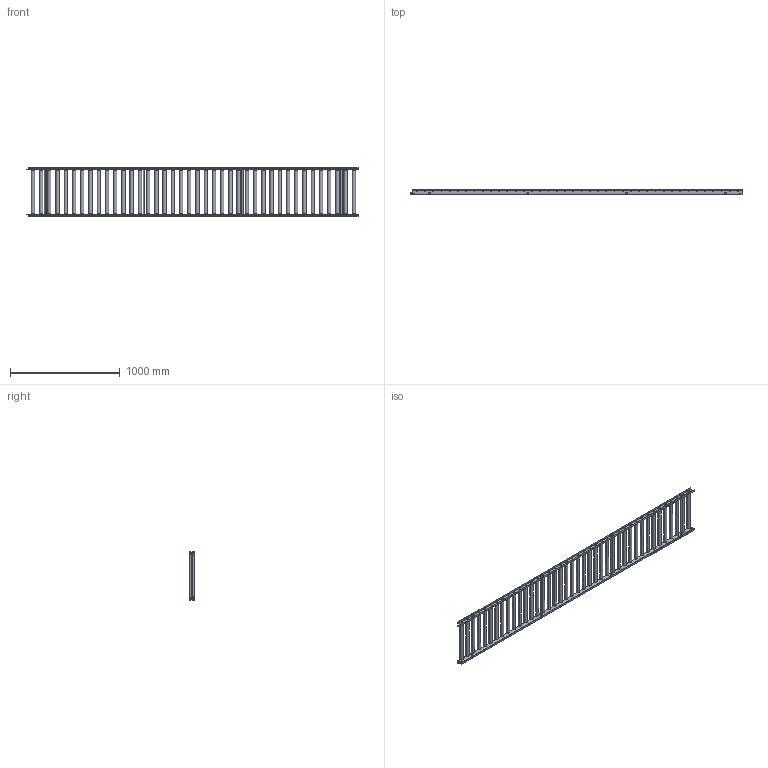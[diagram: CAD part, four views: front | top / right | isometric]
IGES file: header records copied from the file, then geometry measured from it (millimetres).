
Start section: SolidWorks IGES file using analytic representation for surfaces
Global section: file name: C:\Users\0656\Desktop\変換ツール\iges変換\JR-3018B.igs; native system: SolidWorks 2023; preprocessor: SolidWorks 2023; author: 0656; date: 240307.181214; units: millimetre
Bounding box: 3025 x 50.25 x 451 mm (x, y, z)
Surface area: 3862472 mm2 (no closed solid volume)
Topology: 0 solids, 0 shells, 1560 faces, 31152 edges, 31136 vertices
Faces by surface type: revolution 784, bspline 776
